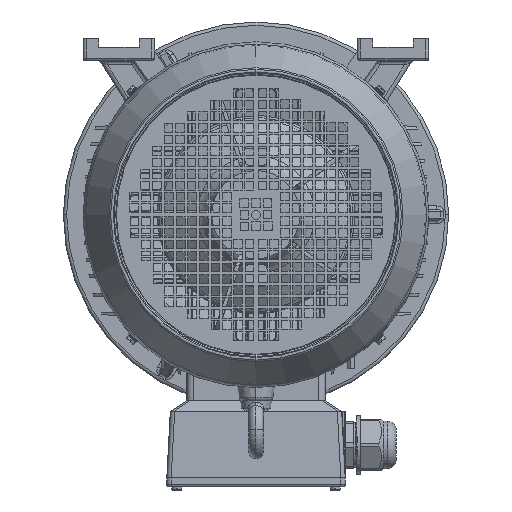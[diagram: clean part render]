
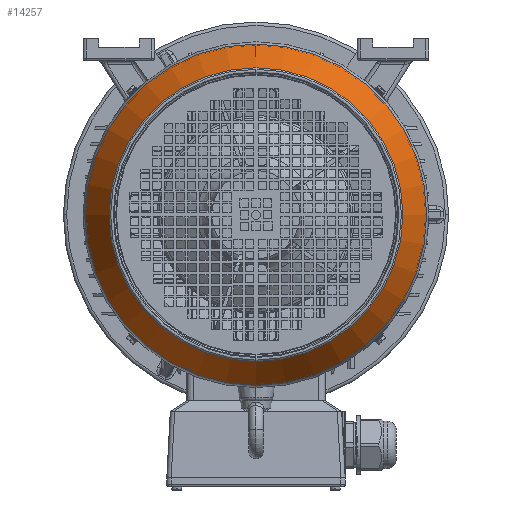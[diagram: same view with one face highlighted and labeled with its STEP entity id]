
A CAD part, left-side view. The second image highlights one B-rep face of the part: STEP entity #14257.
In plain terms, the highlighted conical face has half-angle 30 degrees and reference radius 144.197 mm.
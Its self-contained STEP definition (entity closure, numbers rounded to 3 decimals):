
#3604=CONICAL_SURFACE('',#86464,144.197,30.);
#7314=CIRCLE('',#86457,154.99);
#7317=CIRCLE('',#86462,133.405);
#7318=CIRCLE('',#86463,133.405);
#14257=ADVANCED_FACE('',(#18942,#18943),#3604,.T.);
#18942=FACE_BOUND('',#23082,.T.);
#18943=FACE_BOUND('',#23083,.T.);
#23082=EDGE_LOOP('',(#54100));
#23083=EDGE_LOOP('',(#54101,#54102));
#54100=ORIENTED_EDGE('',*,*,#76716,.F.);
#54101=ORIENTED_EDGE('',*,*,#76719,.T.);
#54102=ORIENTED_EDGE('',*,*,#76720,.T.);
#66970=VERTEX_POINT('',#145948);
#66973=VERTEX_POINT('',#145956);
#66974=VERTEX_POINT('',#145957);
#76716=EDGE_CURVE('',#66970,#66970,#7314,.T.);
#76719=EDGE_CURVE('',#66973,#66974,#7317,.T.);
#76720=EDGE_CURVE('',#66974,#66973,#7318,.T.);
#86457=AXIS2_PLACEMENT_3D('',#145947,#101472,#101473);
#86462=AXIS2_PLACEMENT_3D('',#145955,#101482,#101483);
#86463=AXIS2_PLACEMENT_3D('',#145958,#101484,#101485);
#86464=AXIS2_PLACEMENT_3D('',#145959,#101486,#101487);
#101472=DIRECTION('',(1.,0.,0.));
#101473=DIRECTION('',(0.,0.,-1.));
#101482=DIRECTION('',(1.,0.,0.));
#101483=DIRECTION('',(0.,0.,-1.));
#101484=DIRECTION('',(1.,0.,0.));
#101485=DIRECTION('',(0.,0.,-1.));
#101486=DIRECTION('',(1.,0.,0.));
#101487=DIRECTION('',(0.,0.,1.));
#145947=CARTESIAN_POINT('',(-155.046,166.457,-166.457));
#145948=CARTESIAN_POINT('',(-155.046,166.457,-321.448));
#145955=CARTESIAN_POINT('',(-192.433,166.457,-166.457));
#145956=CARTESIAN_POINT('',(-192.433,166.457,-299.862));
#145957=CARTESIAN_POINT('',(-192.433,166.457,-33.053));
#145958=CARTESIAN_POINT('',(-192.433,166.457,-166.457));
#145959=CARTESIAN_POINT('',(-173.739,166.457,-166.457));
